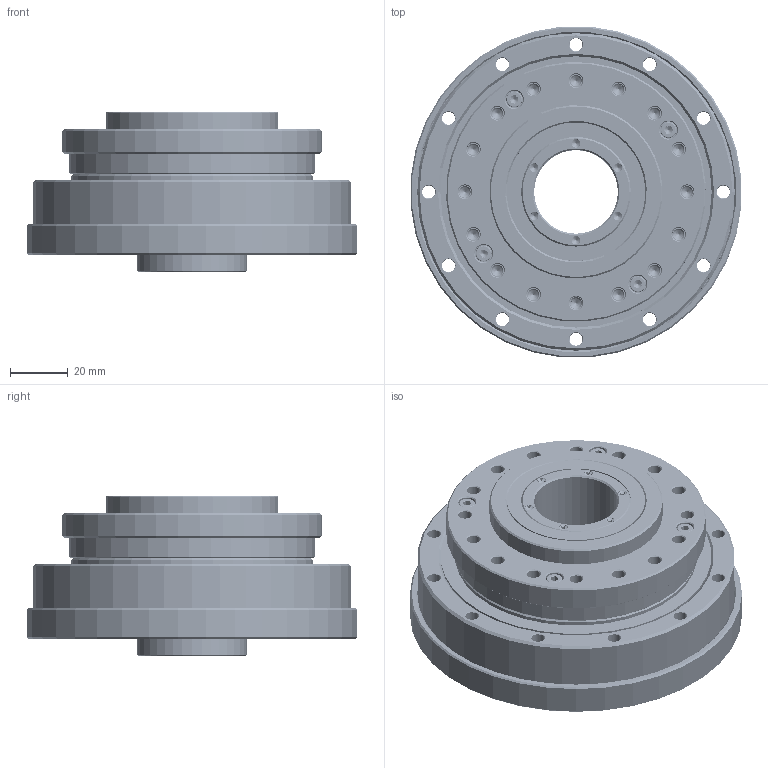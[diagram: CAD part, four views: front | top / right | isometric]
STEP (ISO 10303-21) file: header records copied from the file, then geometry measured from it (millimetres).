
FILE_DESCRIPTION(/* description */ (''),/* implementation_level */ '2;1');
FILE_NAME(/* name */ 'LHT-25-XX-U-III.stp',/* time_stamp */ '2023-07-29T10:55:11+08:00',/* author */ (''),/* organization */ (''),/* preprocessor_version */ 'ST-DEVELOPER v16.7',/* originating_system */ 'SIEMENS PLM Software NX 12.0',/* authorisation */ '');
FILE_SCHEMA (('AUTOMOTIVE_DESIGN { 1 0 10303 214 3 1 1 1 }'));
Products named in the file (19): EB456009-25KC-46; EB456009-25KC-01; TC-84x94x5; SC-38x48x4.5; GB-T70.1-2000,M3x16; 内六角平圆头螺钉M3x10; 内六角平圆头螺钉M3x8; GB-T276_60000_2RZ-1994,61808_2RZ; LHT-25-00-III下壳体; LHT-25-00-III上壳体; LHT-25-XX-III; O-68x1; O-90x1.5; GB-T70.1-2000,M3x12; 柔轮LHT-25; 刚轮LHT-25; EB456009-25KC; 交叉轴承LHT-25; LHT-25-XX-U-III
Assembly tree (32 placements, depth 3):
  LHT-25-XX-U-III
    交叉轴承LHT-25
      TC-84x94x5
    刚轮LHT-25
    柔轮LHT-25
    EB456009-25KC
      EB456009-25KC-01
      EB456009-25KC-46
    GB-T70.1-2000,M3x12  x4
    O-90x1.5
    O-68x1
    LHT-25-XX-III
    LHT-25-00-III上壳体
    LHT-25-00-III下壳体
    GB-T276_60000_2RZ-1994,61808_2RZ  x2
    内六角平圆头螺钉M3x8  x4
    内六角平圆头螺钉M3x10  x4
    GB-T70.1-2000,M3x16  x4
    SC-38x48x4.5  x2
Bounding box: 114.56 x 114.56 x 55.5 mm (x, y, z)
Volume: 227999 mm3; surface area: 183444.6 mm2
Topology: 111 solids, 112 shells, 1539 faces, 3619 edges, 2221 vertices
Faces by surface type: cone 474, cylinder 453, plane 403, torus 110, sphere 73, bspline 24, revolution 2
Full cylindrical faces by diameter (mm): 2.5 x136, 2.874 x16, 3.3 x16, 3.5 x24, 4.5 x68, 5.5 x16, 6 x16, 29 x2, 29.3 x1, 37.5 x2, 38 x4, 39.5 x2, 40 x4, 43 x3, 43.5 x1, 44 x4, 45 x2, 47.5 x1, 47.92 x2, 48 x8, 48.7 x8, 50 x1, 52 x4, 53 x1, 55.4 x1, 57.17 x2, 58 x1, 60 x3, 60.82 x1, 62.21 x1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
Entity records: 68010 total; most frequent: CARTESIAN_POINT 46480, DIRECTION 4474, ORIENTED_EDGE 2998, AXIS2_PLACEMENT_3D 2142, EDGE_LOOP 1874, FACE_BOUND 1694, EDGE_CURVE 1499, VERTEX_POINT 1327
